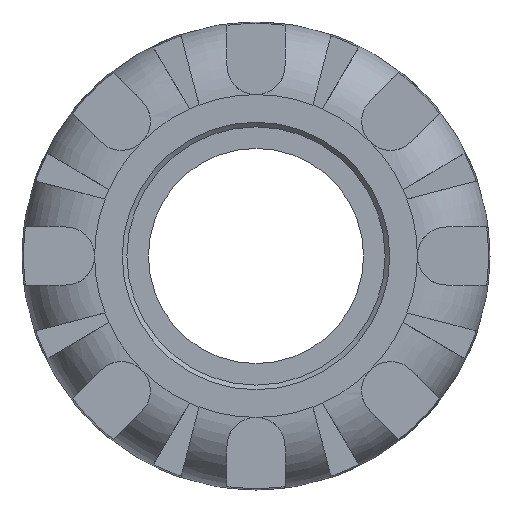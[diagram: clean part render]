
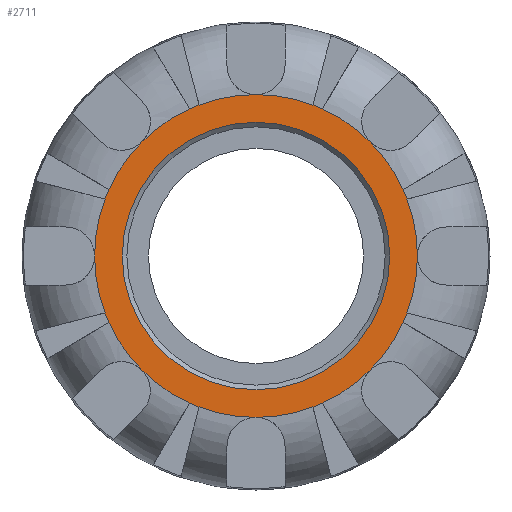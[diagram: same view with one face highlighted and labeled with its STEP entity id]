
A CAD part, left-side view. The second image highlights one B-rep face of the part: STEP entity #2711.
In plain terms, the highlighted planar face has unit normal (-1, 0, 0).
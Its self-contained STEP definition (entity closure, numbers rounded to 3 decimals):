
#19=FACE_BOUND('',#619,.T.);
#34=PLANE('',#2910);
#454=FACE_OUTER_BOUND('',#618,.T.);
#618=EDGE_LOOP('',(#1823,#1824,#1825,#1826,#1827,#1828,#1829,#1830,#1831,
#1832,#1833,#1834,#1835,#1836,#1837,#1838,#1839,#1840,#1841,#1842,#1843,
#1844,#1845,#1846));
#619=EDGE_LOOP('',(#1847));
#785=CIRCLE('',#2907,16.58);
#788=CIRCLE('',#2911,20.);
#789=CIRCLE('',#2912,20.);
#790=CIRCLE('',#2913,20.);
#791=CIRCLE('',#2914,20.);
#792=CIRCLE('',#2915,20.);
#793=CIRCLE('',#2916,20.);
#794=CIRCLE('',#2917,20.);
#795=CIRCLE('',#2918,20.);
#796=CIRCLE('',#2919,20.);
#797=CIRCLE('',#2920,20.);
#798=CIRCLE('',#2921,20.);
#799=CIRCLE('',#2922,20.);
#800=CIRCLE('',#2923,20.);
#801=CIRCLE('',#2924,20.);
#802=CIRCLE('',#2925,20.);
#803=CIRCLE('',#2926,20.);
#804=CIRCLE('',#2927,20.);
#805=CIRCLE('',#2928,20.);
#806=CIRCLE('',#2929,20.);
#807=CIRCLE('',#2930,20.);
#808=CIRCLE('',#2931,20.);
#809=CIRCLE('',#2932,20.);
#810=CIRCLE('',#2933,20.);
#811=CIRCLE('',#2934,20.);
#1077=VERTEX_POINT('',#4330);
#1080=VERTEX_POINT('',#4338);
#1081=VERTEX_POINT('',#4339);
#1082=VERTEX_POINT('',#4341);
#1083=VERTEX_POINT('',#4343);
#1084=VERTEX_POINT('',#4345);
#1085=VERTEX_POINT('',#4347);
#1086=VERTEX_POINT('',#4349);
#1087=VERTEX_POINT('',#4351);
#1088=VERTEX_POINT('',#4353);
#1089=VERTEX_POINT('',#4355);
#1090=VERTEX_POINT('',#4357);
#1091=VERTEX_POINT('',#4359);
#1092=VERTEX_POINT('',#4361);
#1093=VERTEX_POINT('',#4363);
#1094=VERTEX_POINT('',#4365);
#1095=VERTEX_POINT('',#4367);
#1096=VERTEX_POINT('',#4369);
#1097=VERTEX_POINT('',#4371);
#1098=VERTEX_POINT('',#4373);
#1099=VERTEX_POINT('',#4375);
#1100=VERTEX_POINT('',#4377);
#1101=VERTEX_POINT('',#4379);
#1102=VERTEX_POINT('',#4381);
#1103=VERTEX_POINT('',#4383);
#1363=EDGE_CURVE('',#1077,#1077,#785,.T.);
#1367=EDGE_CURVE('',#1080,#1081,#788,.T.);
#1368=EDGE_CURVE('',#1082,#1080,#789,.T.);
#1369=EDGE_CURVE('',#1083,#1082,#790,.T.);
#1370=EDGE_CURVE('',#1084,#1083,#791,.T.);
#1371=EDGE_CURVE('',#1085,#1084,#792,.T.);
#1372=EDGE_CURVE('',#1086,#1085,#793,.T.);
#1373=EDGE_CURVE('',#1087,#1086,#794,.T.);
#1374=EDGE_CURVE('',#1088,#1087,#795,.T.);
#1375=EDGE_CURVE('',#1089,#1088,#796,.T.);
#1376=EDGE_CURVE('',#1090,#1089,#797,.T.);
#1377=EDGE_CURVE('',#1091,#1090,#798,.T.);
#1378=EDGE_CURVE('',#1092,#1091,#799,.T.);
#1379=EDGE_CURVE('',#1093,#1092,#800,.T.);
#1380=EDGE_CURVE('',#1094,#1093,#801,.T.);
#1381=EDGE_CURVE('',#1095,#1094,#802,.T.);
#1382=EDGE_CURVE('',#1096,#1095,#803,.T.);
#1383=EDGE_CURVE('',#1097,#1096,#804,.T.);
#1384=EDGE_CURVE('',#1098,#1097,#805,.T.);
#1385=EDGE_CURVE('',#1099,#1098,#806,.T.);
#1386=EDGE_CURVE('',#1100,#1099,#807,.T.);
#1387=EDGE_CURVE('',#1101,#1100,#808,.T.);
#1388=EDGE_CURVE('',#1102,#1101,#809,.T.);
#1389=EDGE_CURVE('',#1103,#1102,#810,.T.);
#1390=EDGE_CURVE('',#1081,#1103,#811,.T.);
#1823=ORIENTED_EDGE('',*,*,#1367,.F.);
#1824=ORIENTED_EDGE('',*,*,#1368,.F.);
#1825=ORIENTED_EDGE('',*,*,#1369,.F.);
#1826=ORIENTED_EDGE('',*,*,#1370,.F.);
#1827=ORIENTED_EDGE('',*,*,#1371,.F.);
#1828=ORIENTED_EDGE('',*,*,#1372,.F.);
#1829=ORIENTED_EDGE('',*,*,#1373,.F.);
#1830=ORIENTED_EDGE('',*,*,#1374,.F.);
#1831=ORIENTED_EDGE('',*,*,#1375,.F.);
#1832=ORIENTED_EDGE('',*,*,#1376,.F.);
#1833=ORIENTED_EDGE('',*,*,#1377,.F.);
#1834=ORIENTED_EDGE('',*,*,#1378,.F.);
#1835=ORIENTED_EDGE('',*,*,#1379,.F.);
#1836=ORIENTED_EDGE('',*,*,#1380,.F.);
#1837=ORIENTED_EDGE('',*,*,#1381,.F.);
#1838=ORIENTED_EDGE('',*,*,#1382,.F.);
#1839=ORIENTED_EDGE('',*,*,#1383,.F.);
#1840=ORIENTED_EDGE('',*,*,#1384,.F.);
#1841=ORIENTED_EDGE('',*,*,#1385,.F.);
#1842=ORIENTED_EDGE('',*,*,#1386,.F.);
#1843=ORIENTED_EDGE('',*,*,#1387,.F.);
#1844=ORIENTED_EDGE('',*,*,#1388,.F.);
#1845=ORIENTED_EDGE('',*,*,#1389,.F.);
#1846=ORIENTED_EDGE('',*,*,#1390,.F.);
#1847=ORIENTED_EDGE('',*,*,#1363,.F.);
#2711=ADVANCED_FACE('',(#454,#19),#34,.T.);
#2907=AXIS2_PLACEMENT_3D('',#4331,#3279,#3280);
#2910=AXIS2_PLACEMENT_3D('',#4337,#3286,#3287);
#2911=AXIS2_PLACEMENT_3D('',#4340,#3288,#3289);
#2912=AXIS2_PLACEMENT_3D('',#4342,#3290,#3291);
#2913=AXIS2_PLACEMENT_3D('',#4344,#3292,#3293);
#2914=AXIS2_PLACEMENT_3D('',#4346,#3294,#3295);
#2915=AXIS2_PLACEMENT_3D('',#4348,#3296,#3297);
#2916=AXIS2_PLACEMENT_3D('',#4350,#3298,#3299);
#2917=AXIS2_PLACEMENT_3D('',#4352,#3300,#3301);
#2918=AXIS2_PLACEMENT_3D('',#4354,#3302,#3303);
#2919=AXIS2_PLACEMENT_3D('',#4356,#3304,#3305);
#2920=AXIS2_PLACEMENT_3D('',#4358,#3306,#3307);
#2921=AXIS2_PLACEMENT_3D('',#4360,#3308,#3309);
#2922=AXIS2_PLACEMENT_3D('',#4362,#3310,#3311);
#2923=AXIS2_PLACEMENT_3D('',#4364,#3312,#3313);
#2924=AXIS2_PLACEMENT_3D('',#4366,#3314,#3315);
#2925=AXIS2_PLACEMENT_3D('',#4368,#3316,#3317);
#2926=AXIS2_PLACEMENT_3D('',#4370,#3318,#3319);
#2927=AXIS2_PLACEMENT_3D('',#4372,#3320,#3321);
#2928=AXIS2_PLACEMENT_3D('',#4374,#3322,#3323);
#2929=AXIS2_PLACEMENT_3D('',#4376,#3324,#3325);
#2930=AXIS2_PLACEMENT_3D('',#4378,#3326,#3327);
#2931=AXIS2_PLACEMENT_3D('',#4380,#3328,#3329);
#2932=AXIS2_PLACEMENT_3D('',#4382,#3330,#3331);
#2933=AXIS2_PLACEMENT_3D('',#4384,#3332,#3333);
#2934=AXIS2_PLACEMENT_3D('',#4385,#3334,#3335);
#3279=DIRECTION('center_axis',(-1.,0.,0.));
#3280=DIRECTION('ref_axis',(0.,-1.,0.));
#3286=DIRECTION('center_axis',(-1.,0.,0.));
#3287=DIRECTION('ref_axis',(0.,0.,1.));
#3288=DIRECTION('center_axis',(1.,0.,0.));
#3289=DIRECTION('ref_axis',(0.,0.,-1.));
#3290=DIRECTION('center_axis',(1.,0.,0.));
#3291=DIRECTION('ref_axis',(0.,0.,-1.));
#3292=DIRECTION('center_axis',(1.,0.,0.));
#3293=DIRECTION('ref_axis',(0.,0.,-1.));
#3294=DIRECTION('center_axis',(1.,0.,0.));
#3295=DIRECTION('ref_axis',(0.,0.,-1.));
#3296=DIRECTION('center_axis',(1.,0.,0.));
#3297=DIRECTION('ref_axis',(0.,0.,-1.));
#3298=DIRECTION('center_axis',(1.,0.,0.));
#3299=DIRECTION('ref_axis',(0.,0.,-1.));
#3300=DIRECTION('center_axis',(1.,0.,0.));
#3301=DIRECTION('ref_axis',(0.,0.,-1.));
#3302=DIRECTION('center_axis',(1.,0.,0.));
#3303=DIRECTION('ref_axis',(0.,0.,-1.));
#3304=DIRECTION('center_axis',(1.,0.,0.));
#3305=DIRECTION('ref_axis',(0.,0.,-1.));
#3306=DIRECTION('center_axis',(1.,0.,0.));
#3307=DIRECTION('ref_axis',(0.,0.,-1.));
#3308=DIRECTION('center_axis',(1.,0.,0.));
#3309=DIRECTION('ref_axis',(0.,0.,-1.));
#3310=DIRECTION('center_axis',(1.,0.,0.));
#3311=DIRECTION('ref_axis',(0.,0.,-1.));
#3312=DIRECTION('center_axis',(1.,0.,0.));
#3313=DIRECTION('ref_axis',(0.,0.,-1.));
#3314=DIRECTION('center_axis',(1.,0.,0.));
#3315=DIRECTION('ref_axis',(0.,0.,-1.));
#3316=DIRECTION('center_axis',(1.,0.,0.));
#3317=DIRECTION('ref_axis',(0.,0.,-1.));
#3318=DIRECTION('center_axis',(1.,0.,0.));
#3319=DIRECTION('ref_axis',(0.,0.,-1.));
#3320=DIRECTION('center_axis',(1.,0.,0.));
#3321=DIRECTION('ref_axis',(0.,0.,-1.));
#3322=DIRECTION('center_axis',(1.,0.,0.));
#3323=DIRECTION('ref_axis',(0.,0.,-1.));
#3324=DIRECTION('center_axis',(1.,0.,0.));
#3325=DIRECTION('ref_axis',(0.,0.,-1.));
#3326=DIRECTION('center_axis',(1.,0.,0.));
#3327=DIRECTION('ref_axis',(0.,0.,-1.));
#3328=DIRECTION('center_axis',(1.,0.,0.));
#3329=DIRECTION('ref_axis',(0.,0.,-1.));
#3330=DIRECTION('center_axis',(1.,0.,0.));
#3331=DIRECTION('ref_axis',(0.,0.,-1.));
#3332=DIRECTION('center_axis',(1.,0.,0.));
#3333=DIRECTION('ref_axis',(0.,0.,-1.));
#3334=DIRECTION('center_axis',(1.,0.,0.));
#3335=DIRECTION('ref_axis',(0.,0.,-1.));
#4330=CARTESIAN_POINT('',(-56.,16.58,0.));
#4331=CARTESIAN_POINT('Origin',(-56.,0.,0.));
#4337=CARTESIAN_POINT('Origin',(-56.,20.,0.));
#4338=CARTESIAN_POINT('',(-56.,20.,0.));
#4339=CARTESIAN_POINT('',(-56.,18.713,7.058));
#4340=CARTESIAN_POINT('Origin',(-56.,0.,0.));
#4341=CARTESIAN_POINT('',(-56.,18.713,-7.058));
#4342=CARTESIAN_POINT('Origin',(-56.,0.,0.));
#4343=CARTESIAN_POINT('',(-56.,18.223,-8.241));
#4344=CARTESIAN_POINT('Origin',(-56.,0.,0.));
#4345=CARTESIAN_POINT('',(-56.,14.142,-14.142));
#4346=CARTESIAN_POINT('Origin',(-56.,0.,0.));
#4347=CARTESIAN_POINT('',(-56.,8.241,-18.223));
#4348=CARTESIAN_POINT('Origin',(-56.,0.,0.));
#4349=CARTESIAN_POINT('',(-56.,7.058,-18.713));
#4350=CARTESIAN_POINT('Origin',(-56.,0.,0.));
#4351=CARTESIAN_POINT('',(-56.,0.,-20.));
#4352=CARTESIAN_POINT('Origin',(-56.,0.,0.));
#4353=CARTESIAN_POINT('',(-56.,-7.058,-18.713));
#4354=CARTESIAN_POINT('Origin',(-56.,0.,0.));
#4355=CARTESIAN_POINT('',(-56.,-8.241,-18.223));
#4356=CARTESIAN_POINT('Origin',(-56.,0.,0.));
#4357=CARTESIAN_POINT('',(-56.,-14.142,-14.142));
#4358=CARTESIAN_POINT('Origin',(-56.,0.,0.));
#4359=CARTESIAN_POINT('',(-56.,-18.223,-8.241));
#4360=CARTESIAN_POINT('Origin',(-56.,0.,0.));
#4361=CARTESIAN_POINT('',(-56.,-18.713,-7.058));
#4362=CARTESIAN_POINT('Origin',(-56.,0.,0.));
#4363=CARTESIAN_POINT('',(-56.,-20.,0.));
#4364=CARTESIAN_POINT('Origin',(-56.,0.,0.));
#4365=CARTESIAN_POINT('',(-56.,-18.713,7.058));
#4366=CARTESIAN_POINT('Origin',(-56.,0.,0.));
#4367=CARTESIAN_POINT('',(-56.,-18.223,8.241));
#4368=CARTESIAN_POINT('Origin',(-56.,0.,0.));
#4369=CARTESIAN_POINT('',(-56.,-14.142,14.142));
#4370=CARTESIAN_POINT('Origin',(-56.,0.,0.));
#4371=CARTESIAN_POINT('',(-56.,-8.241,18.223));
#4372=CARTESIAN_POINT('Origin',(-56.,0.,0.));
#4373=CARTESIAN_POINT('',(-56.,-7.058,18.713));
#4374=CARTESIAN_POINT('Origin',(-56.,0.,0.));
#4375=CARTESIAN_POINT('',(-56.,0.,20.));
#4376=CARTESIAN_POINT('Origin',(-56.,0.,0.));
#4377=CARTESIAN_POINT('',(-56.,7.058,18.713));
#4378=CARTESIAN_POINT('Origin',(-56.,0.,0.));
#4379=CARTESIAN_POINT('',(-56.,8.241,18.223));
#4380=CARTESIAN_POINT('Origin',(-56.,0.,0.));
#4381=CARTESIAN_POINT('',(-56.,14.142,14.142));
#4382=CARTESIAN_POINT('Origin',(-56.,0.,0.));
#4383=CARTESIAN_POINT('',(-56.,18.223,8.241));
#4384=CARTESIAN_POINT('Origin',(-56.,0.,0.));
#4385=CARTESIAN_POINT('Origin',(-56.,0.,0.));
